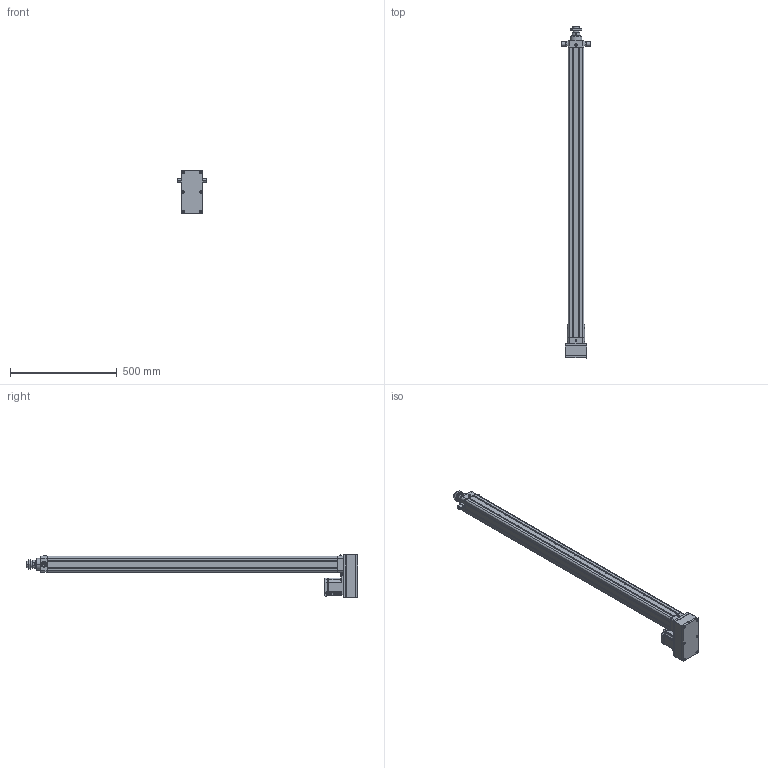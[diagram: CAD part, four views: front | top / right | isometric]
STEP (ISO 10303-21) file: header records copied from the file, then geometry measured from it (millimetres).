
FILE_DESCRIPTION((''),'2;1');
FILE_NAME('HE63-D-100-X1_ASM','2020-05-15T',('ASUS20200'),(''),'CREO PARAMETRIC BY PTC INC, 2014190','CREO PARAMETRIC BY PTC INC, 2014190','');
FILE_SCHEMA(('CONFIG_CONTROL_DESIGN'));
Length unit declared in the file: millimetre
Products named in the file (24): HE63-D-P-001-X1; HE63-D-P-002-X1; HE63-D-P-003-X1; LGLM-M8-22; SLM-01; YZ-M6X1; JDB405030; HE63-P-010-X1-80N; _MHMF082L1A2; MHMF082L1A2M2_1_ASM; JX6X6X25; HE63-P-012-X1; HE63-P-013-X1; M6X60; JM-M8; LM-M8-15; LM-M8X1-25; HE63-D-P-005-X1; HE63-D-P-004-X1; HE63-D-P-008-X1; TD-6; M6X25; HE63-TC; HE63-D-100-X1_ASM
Assembly tree (42 placements, depth 3):
  HE63-D-100-X1_ASM
    HE63-D-P-001-X1
    HE63-D-P-002-X1
    HE63-D-P-003-X1
    LGLM-M8-22  x8
    SLM-01
    YZ-M6X1
    JDB405030
    HE63-P-010-X1-80N
    MHMF082L1A2M2_1_ASM
      _MHMF082L1A2
    JX6X6X25
    HE63-P-012-X1
    HE63-P-013-X1
    M6X60  x6
    JM-M8
    LM-M8-15
    LM-M8X1-25
    HE63-D-P-005-X1
    HE63-D-P-004-X1
    HE63-D-P-008-X1
    TD-6  x4
    M6X25  x4
    HE63-TC  x2
Bounding box: 135 x 1557 x 200.5 mm (x, y, z)
Volume: 4318563.5 mm3; surface area: 1315107.2 mm2
Topology: 41 solids, 73 shells, 2125 faces, 5077 edges, 3130 vertices
Faces by surface type: plane 810, cylinder 621, cone 559, torus 102, sphere 30, bspline 3
Entity records: 49413 total; most frequent: CARTESIAN_POINT 9677, DIRECTION 8799, ORIENTED_EDGE 7698, EDGE_CURVE 3909, AXIS2_PLACEMENT_3D 3391, VERTEX_POINT 2424, VECTOR 2017, LINE 2017
